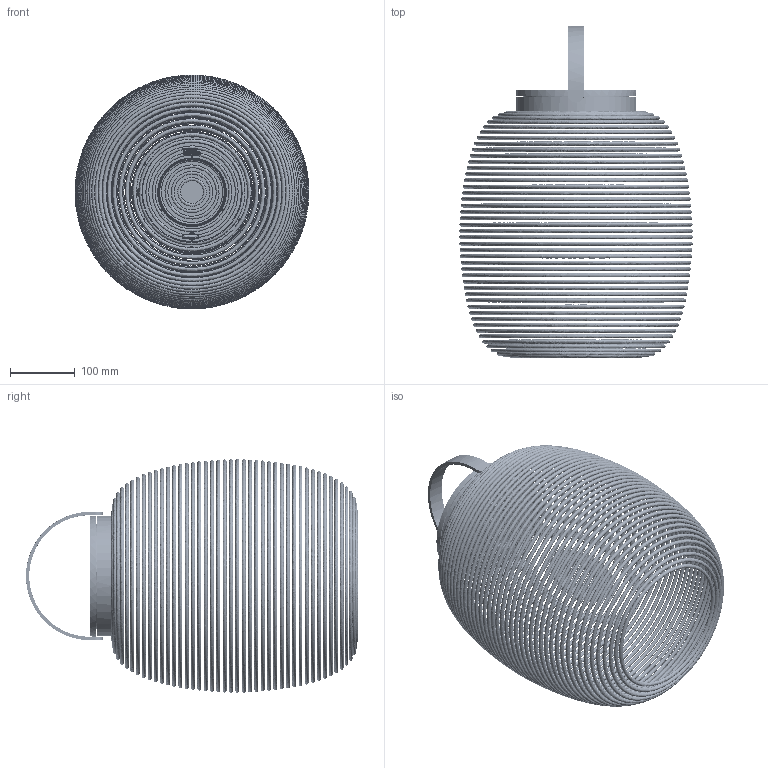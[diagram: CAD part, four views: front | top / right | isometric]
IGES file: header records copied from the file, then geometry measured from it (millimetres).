
Global section: file name: Tika Lantern Small; native system: unknown; preprocessor: unknown; author: unknown; organization: unknown; date: 20200120.165433; units: millimetre
Bounding box: 359.95 x 511.02 x 359.95 mm (x, y, z)
Volume: 1845264.8 mm3; surface area: 1254744.8 mm2
Topology: 75 solids, 76 shells, 1996 faces, 5329 edges, 3467 vertices
Faces by surface type: bspline 1996
